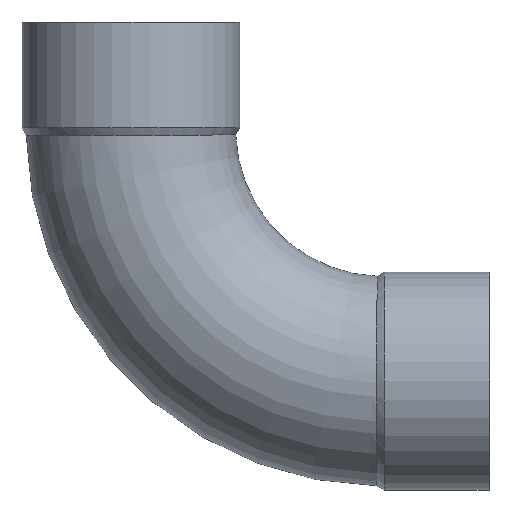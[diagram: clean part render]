
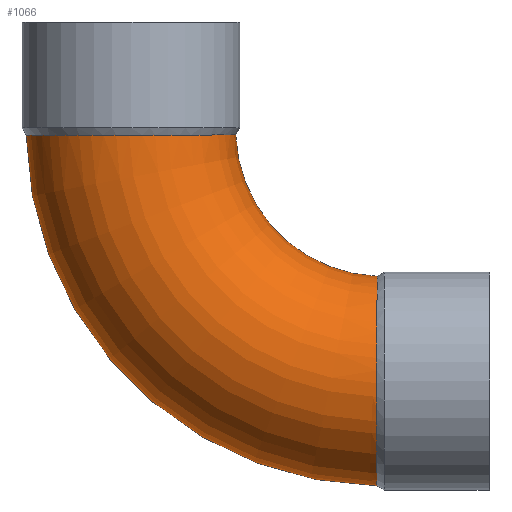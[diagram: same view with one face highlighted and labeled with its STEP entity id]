
A CAD part, front view. The second image highlights one B-rep face of the part: STEP entity #1066.
In plain terms, the highlighted toroidal (fillet/blend) face has major radius 84 mm and minor radius 35 mm.
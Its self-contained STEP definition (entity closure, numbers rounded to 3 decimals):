
#49=CARTESIAN_POINT('',(-96.951,0.,-1.824));
#50=VERTEX_POINT('',#49);
#51=CARTESIAN_POINT('',(20.211,0.,-118.986));
#52=VERTEX_POINT('',#51);
#53=CARTESIAN_POINT('',(22.035,0.,0.0));
#54=DIRECTION('',(0.0,-1.0,0.0));
#55=DIRECTION('',(0.0,0.0,-1.0));
#56=AXIS2_PLACEMENT_3D('',#53,#54,#55);
#57=CIRCLE('',#56,119.0);
#58=EDGE_CURVE('',#50,#52,#57,.T.);
#60=CARTESIAN_POINT('',(-26.934,0.,-1.746));
#61=VERTEX_POINT('',#60);
#85=CARTESIAN_POINT('',(20.289,0.,-48.969));
#86=VERTEX_POINT('',#85);
#87=CARTESIAN_POINT('',(22.035,0.,0.0));
#88=DIRECTION('',(0.0,1.0,0.0));
#89=DIRECTION('',(0.0,0.0,-1.0));
#90=AXIS2_PLACEMENT_3D('',#87,#88,#89);
#91=CIRCLE('',#90,49.0);
#92=EDGE_CURVE('',#86,#61,#91,.T.);
#228=CARTESIAN_POINT('',(-26.934,0.,-1.746));
#229=CARTESIAN_POINT('',(-26.934,-0.305,-1.746));
#230=CARTESIAN_POINT('',(-26.938,-0.61,-1.746));
#231=CARTESIAN_POINT('',(-27.065,-5.47,-1.746));
#232=CARTESIAN_POINT('',(-28.073,-9.958,-1.749));
#233=CARTESIAN_POINT('',(-31.754,-18.298,-1.757));
#234=CARTESIAN_POINT('',(-34.392,-22.069,-1.763));
#235=CARTESIAN_POINT('',(-40.966,-28.388,-1.774));
#236=CARTESIAN_POINT('',(-44.84,-30.876,-1.78));
#237=CARTESIAN_POINT('',(-53.321,-34.226,-1.791));
#238=CARTESIAN_POINT('',(-57.848,-35.057,-1.796));
#239=CARTESIAN_POINT('',(-66.966,-34.937,-1.805));
#240=CARTESIAN_POINT('',(-71.468,-33.987,-1.808));
#241=CARTESIAN_POINT('',(-79.856,-30.415,-1.814));
#242=CARTESIAN_POINT('',(-83.661,-27.828,-1.817));
#243=CARTESIAN_POINT('',(-90.064,-21.34,-1.821));
#244=CARTESIAN_POINT('',(-92.601,-17.502,-1.822));
#245=CARTESIAN_POINT('',(-96.061,-9.071,-1.824));
#246=CARTESIAN_POINT('',(-96.951,-4.557,-1.824));
#247=CARTESIAN_POINT('',(-96.951,0.,-1.824));
#248=B_SPLINE_CURVE_WITH_KNOTS('',3,(#228,#229,#230,#231,#232,#233,#234,#235,#236,#237,#238,#239,#240,#241,#242,#243,#244,#245,#246,#247),.UNSPECIFIED.,.F.,.U.,(4,2,2,2,2,2,2,2,2,4),(-11.031,-10.94,-9.573,-8.205,-6.837,-5.469,-4.102,-2.734,-1.367,0.0),.UNSPECIFIED.);
#249=EDGE_CURVE('',#61,#50,#248,.T.);
#1033=CARTESIAN_POINT('',(22.035,0.,0.0));
#1034=DIRECTION('',(0.0,-1.0,0.0));
#1035=DIRECTION('',(0.0,0.0,-1.0));
#1036=AXIS2_PLACEMENT_3D('',#1033,#1034,#1035);
#1037=TOROIDAL_SURFACE('',#1036,84.0,35.0);
#1038=ORIENTED_EDGE('',*,*,#58,.T.);
#1039=CARTESIAN_POINT('',(20.211,0.,-118.986));
#1040=CARTESIAN_POINT('',(20.211,-2.58,-118.986));
#1041=CARTESIAN_POINT('',(20.211,-5.153,-118.701));
#1042=CARTESIAN_POINT('',(20.212,-10.188,-117.57));
#1043=CARTESIAN_POINT('',(20.212,-12.635,-116.727));
#1044=CARTESIAN_POINT('',(20.214,-19.087,-113.675));
#1045=CARTESIAN_POINT('',(20.215,-22.787,-110.939));
#1046=CARTESIAN_POINT('',(20.219,-28.93,-104.204));
#1047=CARTESIAN_POINT('',(20.222,-31.314,-100.268));
#1048=CARTESIAN_POINT('',(20.228,-34.441,-91.703));
#1049=CARTESIAN_POINT('',(20.232,-35.153,-87.156));
#1050=CARTESIAN_POINT('',(20.241,-34.793,-78.044));
#1051=CARTESIAN_POINT('',(20.246,-33.725,-73.566));
#1052=CARTESIAN_POINT('',(20.257,-29.933,-65.273));
#1053=CARTESIAN_POINT('',(20.263,-27.245,-61.536));
#1054=CARTESIAN_POINT('',(20.275,-20.591,-55.306));
#1055=CARTESIAN_POINT('',(20.28,-16.689,-52.87));
#1056=CARTESIAN_POINT('',(20.287,-8.457,-49.742));
#1057=CARTESIAN_POINT('',(20.289,-4.245,-48.969));
#1058=CARTESIAN_POINT('',(20.289,0.,-48.969));
#1059=B_SPLINE_CURVE_WITH_KNOTS('',3,(#1039,#1040,#1041,#1042,#1043,#1044,#1045,#1046,#1047,#1048,#1049,#1050,#1051,#1052,#1053,#1054,#1055,#1056,#1057,#1058),.UNSPECIFIED.,.F.,.U.,(4,2,2,2,2,2,2,2,2,4),(-22.06,-21.286,-20.511,-19.144,-17.777,-16.409,-15.041,-13.673,-12.306,-11.031),.UNSPECIFIED.);
#1060=EDGE_CURVE('',#52,#86,#1059,.T.);
#1061=ORIENTED_EDGE('',*,*,#1060,.T.);
#1062=ORIENTED_EDGE('',*,*,#92,.T.);
#1063=ORIENTED_EDGE('',*,*,#249,.T.);
#1064=EDGE_LOOP('',(#1038,#1061,#1062,#1063));
#1065=FACE_OUTER_BOUND('',#1064,.T.);
#1066=ADVANCED_FACE('',(#1065),#1037,.T.);
